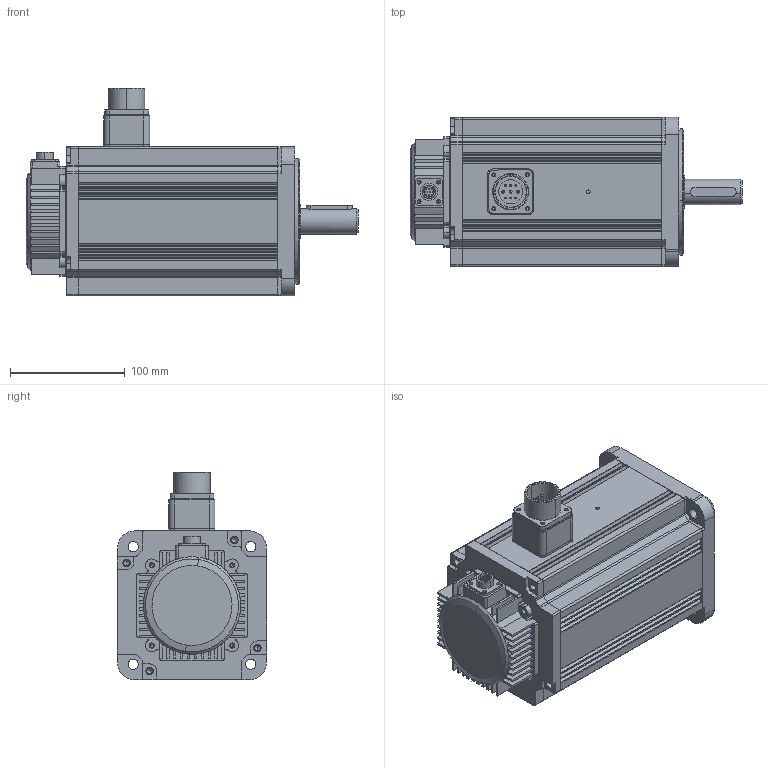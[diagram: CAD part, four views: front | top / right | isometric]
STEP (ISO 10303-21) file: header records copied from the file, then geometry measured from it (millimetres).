
FILE_DESCRIPTION (( 'STEP AP203' ), '1' );
FILE_NAME ('UMM-0020EAB-B2 UMM-0020CAB-B2_(02).STEP', '2021-12-29T16:17:59', ( '' ), ( '' ), 'SwSTEP 2.0', 'SolidWorks 2020', '' );
FILE_SCHEMA (( 'CONFIG_CONTROL_DESIGN' ));
Length unit declared in the file: millimetre
Products named in the file (1): UMM-0020EAB-B2 UMM-0020CAB-B2_(02)
Bounding box: 289.5 x 130 x 181.3 mm (x, y, z)
Volume: 1234118 mm3; surface area: 423453.7 mm2
Topology: 13 solids, 13 shells, 1472 faces, 4157 edges, 2674 vertices
Faces by surface type: cylinder 671, plane 517, bspline 161, cone 122, torus 1
Entity records: 55561 total; most frequent: CARTESIAN_POINT 17680, ORIENTED_EDGE 8086, DIRECTION 7958, EDGE_CURVE 4043, AXIS2_PLACEMENT_3D 3026, VERTEX_POINT 2674, VECTOR 1906, LINE 1906
